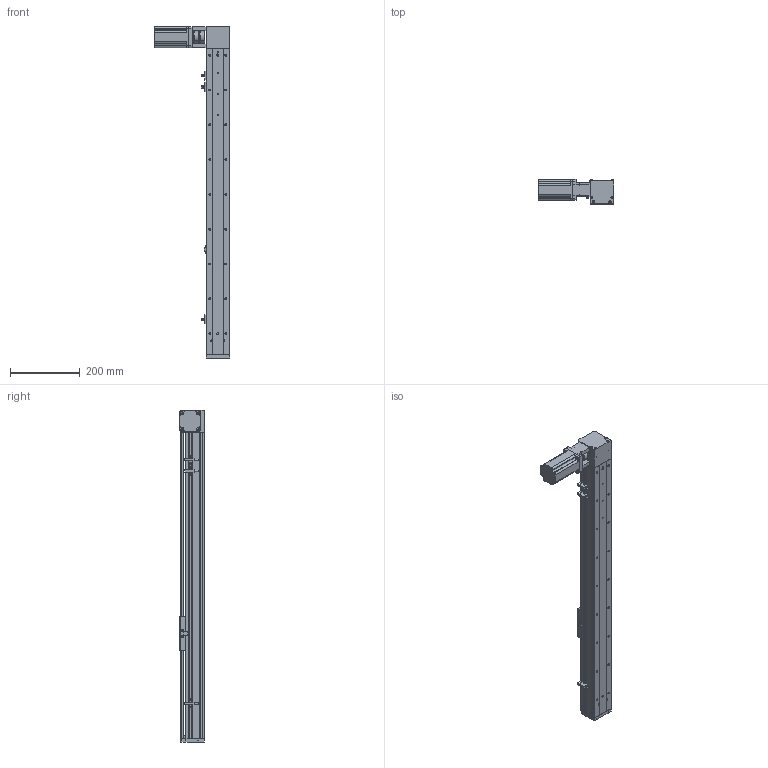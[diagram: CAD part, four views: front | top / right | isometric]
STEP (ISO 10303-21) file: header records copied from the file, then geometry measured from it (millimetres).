
FILE_DESCRIPTION (( 'STEP AP203' ), '1' );
FILE_NAME ('ML68-S700-BL.STEP', '2016-06-01T03:16:07', ( '微软用户' ), ( '微软中国' ), 'SwSTEP 2.0', 'SolidWorks 2014', '' );
FILE_SCHEMA (( 'CONFIG_CONTROL_DESIGN' ));
Length unit declared in the file: millimetre
Products named in the file (12): 60換覜結え; ML68-菁釱^ML68-S700-BL; ML68-奻裔^ML68-S700-BL; ML68傷啣; ML68雄赽釱; 換覜ん; ML68滅鳥啣盓傅輸; 三协电机MH201N2_預設; ML68-S700-BL; 联轴器（CS34X32-8X14）_預設; MS68-TS0204鎮湛嘐隅釱_蕼偞; ML68-BL傷啣
Assembly tree (13 placements, depth 2):
  ML68-S700-BL
    ML68-BL傷啣
    60換覜結え
    ML68-菁釱^ML68-S700-BL
    ML68傷啣
    換覜ん  x3
    三协电机MH201N2_預設
    联轴器（CS34X32-8X14）_預設
    MS68-TS0204鎮湛嘐隅釱_蕼偞
    ML68-奻裔^ML68-S700-BL
    ML68雄赽釱
    ML68滅鳥啣盓傅輸
Bounding box: 216.5 x 70.5 x 954 mm (x, y, z)
Volume: 1764553.9 mm3; surface area: 638007.6 mm2
Topology: 14 solids, 14 shells, 935 faces, 2537 edges, 1607 vertices
Faces by surface type: cylinder 439, plane 378, cone 100, bspline 18
Entity records: 30169 total; most frequent: CARTESIAN_POINT 6375, DIRECTION 4829, ORIENTED_EDGE 4590, EDGE_CURVE 2295, AXIS2_PLACEMENT_3D 1775, VERTEX_POINT 1495, VECTOR 1279, LINE 1279
